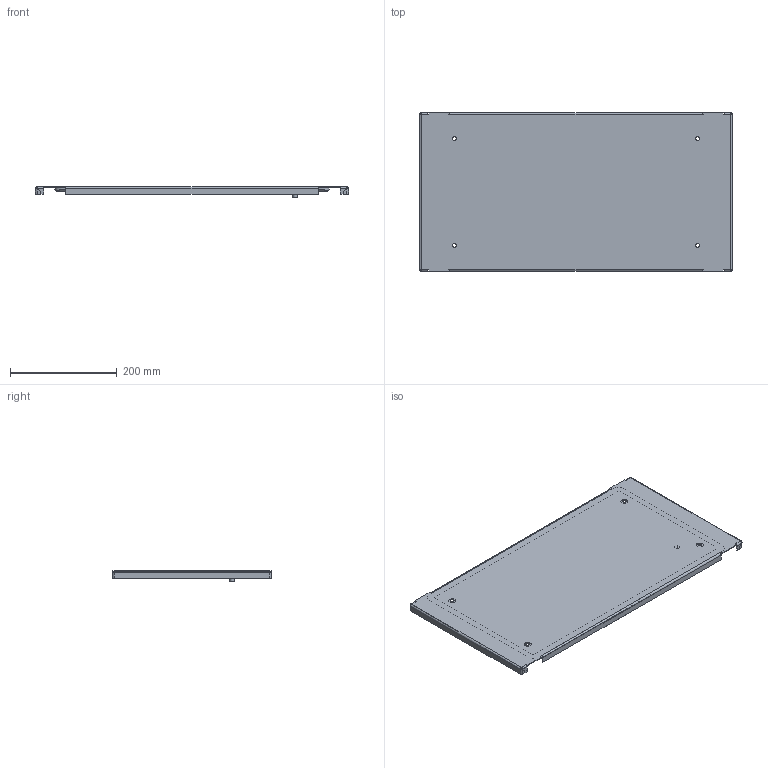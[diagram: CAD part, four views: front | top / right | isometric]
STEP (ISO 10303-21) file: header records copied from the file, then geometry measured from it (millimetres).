
FILE_DESCRIPTION(('STEP AP203'), '1');
FILE_NAME('Ïàíåëü ëèöåâàÿ ãëóõàÿ 300õ600 ìì OptiBox M 419481 ÊÝÀÇ', '', ('UNSPECIFIED'), ('UNSPECIFIED'), 'C3D Converter', 'C3D Toolkit', '');
FILE_SCHEMA(('CONFIG_CONTROL_DESIGN'));
Length unit declared in the file: millimetre
Bounding box: 586.4 x 297 x 18.9 mm (x, y, z)
Volume: 379050.4 mm3; surface area: 439509.6 mm2
Topology: 3 solids, 3 shells, 168 faces, 385 edges, 230 vertices
Faces by surface type: plane 109, cylinder 51, bspline 8
Full cylindrical faces by diameter (mm): 0.75 x1, 1 x1, 5 x2, 7.3 x4, 8 x1, 9.3 x1, 13 x1, 13.5 x4
Entity records: 5740 total; most frequent: CARTESIAN_POINT 2005, ORIENTED_EDGE 740, DIRECTION 726, EDGE_CURVE 370, LINE 264, VECTOR 264, AXIS2_PLACEMENT_3D 231, VERTEX_POINT 230
